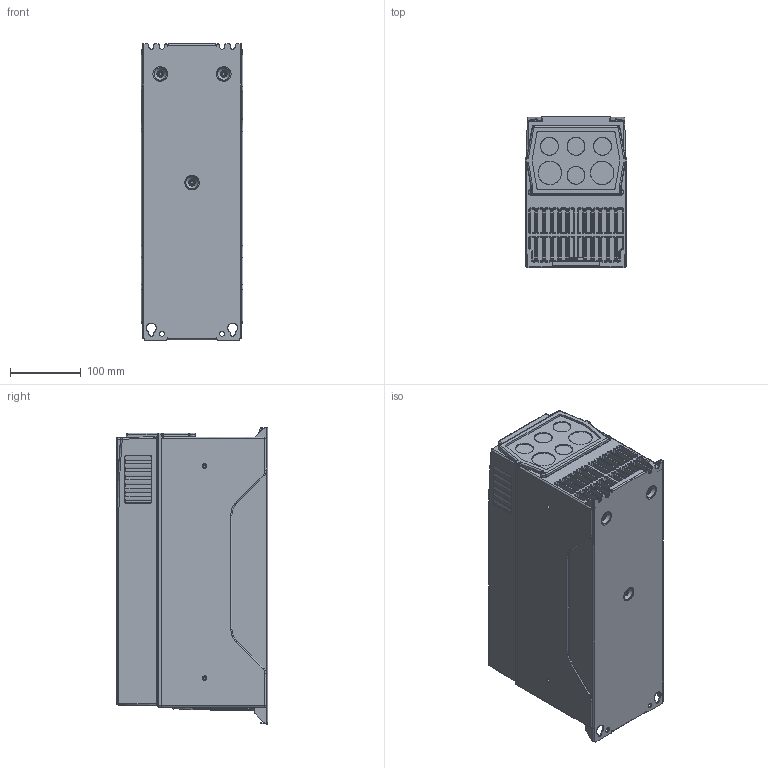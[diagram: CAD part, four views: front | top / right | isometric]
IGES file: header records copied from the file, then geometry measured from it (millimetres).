
Global section: file name: C:\temp\3D mechanics (extra.vacon)\Agileen\MR5\MR5_Simplified_Model_igs.igs; native system: NX V6.0; preprocessor: SIEMENS UGS NX 6.0; date: 20121211.135224; units: millimetre
Bounding box: 144 x 214 x 419 mm (x, y, z)
Surface area: 560669.4 mm2 (no closed solid volume)
Topology: 0 solids, 0 shells, 1614 faces, 10032 edges, 10040 vertices
Faces by surface type: bspline 1614
